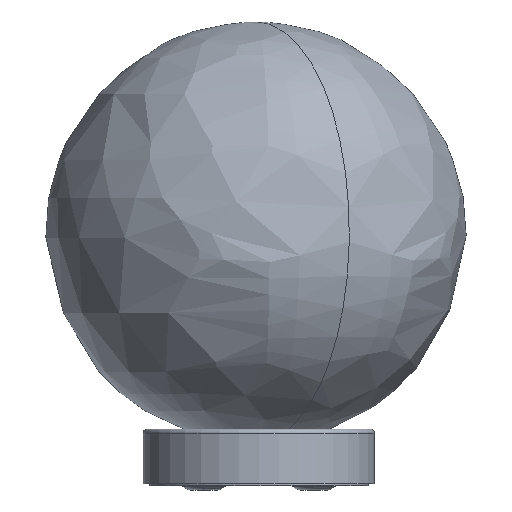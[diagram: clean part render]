
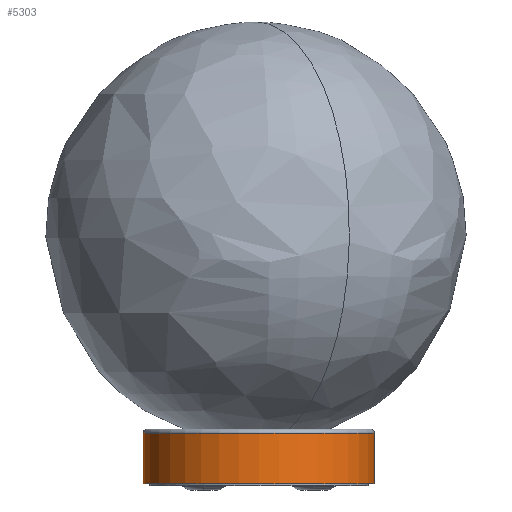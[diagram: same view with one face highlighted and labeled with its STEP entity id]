
A CAD part, front view. The second image highlights one B-rep face of the part: STEP entity #5303.
In plain terms, the highlighted cylindrical face has radius 55 mm (diameter 110 mm), a partial arc.
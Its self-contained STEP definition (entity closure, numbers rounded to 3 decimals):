
#34 = ORIENTED_EDGE ( 'NONE', *, *, #2457, .T. ) ;
#272 = DIRECTION ( 'NONE',  ( -1., 0., 0. ) ) ;
#577 = CARTESIAN_POINT ( 'NONE',  ( -55., 26., 0. ) ) ;
#584 = CARTESIAN_POINT ( 'NONE',  ( 55., 19.215, 0. ) ) ;
#813 = EDGE_CURVE ( 'NONE', #4577, #6409, #2321, .T. ) ;
#1081 = CARTESIAN_POINT ( 'NONE',  ( 0., 19.215, 0. ) ) ;
#1271 = DIRECTION ( 'NONE',  ( 0., 1., 0. ) ) ;
#1405 = EDGE_LOOP ( 'NONE', ( #1597, #34, #1804, #6092 ) ) ;
#1580 = DIRECTION ( 'NONE',  ( -1., 0., 0. ) ) ;
#1597 = ORIENTED_EDGE ( 'NONE', *, *, #813, .F. ) ;
#1804 = ORIENTED_EDGE ( 'NONE', *, *, #2297, .T. ) ;
#1813 = CARTESIAN_POINT ( 'NONE',  ( 0., 26., 0. ) ) ;
#1973 = CARTESIAN_POINT ( 'NONE',  ( 55., 2., 0. ) ) ;
#2236 = DIRECTION ( 'NONE',  ( 0., 1., 0. ) ) ;
#2262 = VERTEX_POINT ( 'NONE', #2668 ) ;
#2297 = EDGE_CURVE ( 'NONE', #2262, #3106, #4510, .T. ) ;
#2321 = LINE ( 'NONE', #584, #4166 ) ;
#2457 = EDGE_CURVE ( 'NONE', #4577, #2262, #4903, .T. ) ;
#2561 = VECTOR ( 'NONE', #3747, 1000. ) ;
#2668 = CARTESIAN_POINT ( 'NONE',  ( -55., 2., 0. ) ) ;
#2975 = FACE_OUTER_BOUND ( 'NONE', #1405, .T. ) ;
#3106 = VERTEX_POINT ( 'NONE', #577 ) ;
#3109 = AXIS2_PLACEMENT_3D ( 'NONE', #1813, #1271, #272 ) ;
#3451 = CYLINDRICAL_SURFACE ( 'NONE', #6090, 55. ) ;
#3747 = DIRECTION ( 'NONE',  ( 0., 1., 0. ) ) ;
#3847 = EDGE_CURVE ( 'NONE', #6409, #3106, #5027, .T. ) ;
#4166 = VECTOR ( 'NONE', #4178, 1000. ) ;
#4178 = DIRECTION ( 'NONE',  ( 0., 1., 0. ) ) ;
#4189 = CARTESIAN_POINT ( 'NONE',  ( 0., 2., 0. ) ) ;
#4510 = LINE ( 'NONE', #5157, #2561 ) ;
#4577 = VERTEX_POINT ( 'NONE', #1973 ) ;
#4903 = CIRCLE ( 'NONE', #6414, 55. ) ;
#5027 = CIRCLE ( 'NONE', #3109, 55. ) ;
#5157 = CARTESIAN_POINT ( 'NONE',  ( -55., 19.215, 0. ) ) ;
#5248 = DIRECTION ( 'NONE',  ( -1., 0., 0. ) ) ;
#5303 = ADVANCED_FACE ( 'NONE', ( #2975 ), #3451, .T. ) ;
#5531 = DIRECTION ( 'NONE',  ( 0., 1., 0. ) ) ;
#6090 = AXIS2_PLACEMENT_3D ( 'NONE', #1081, #5531, #1580 ) ;
#6092 = ORIENTED_EDGE ( 'NONE', *, *, #3847, .F. ) ;
#6409 = VERTEX_POINT ( 'NONE', #6442 ) ;
#6414 = AXIS2_PLACEMENT_3D ( 'NONE', #4189, #2236, #5248 ) ;
#6442 = CARTESIAN_POINT ( 'NONE',  ( 55., 26., 0. ) ) ;
